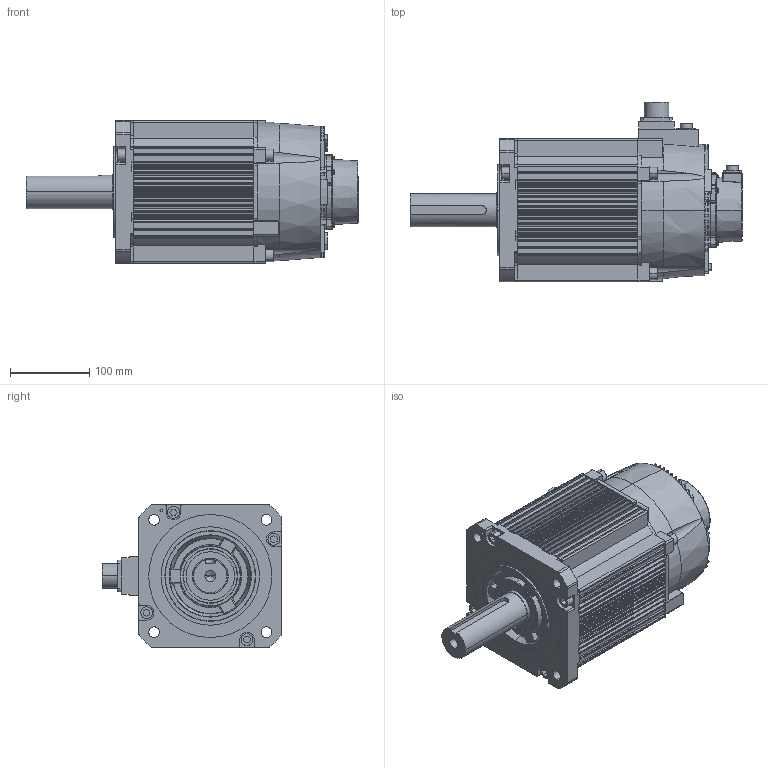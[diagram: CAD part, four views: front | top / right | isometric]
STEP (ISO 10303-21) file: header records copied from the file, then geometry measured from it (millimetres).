
FILE_DESCRIPTION (( 'STEP AP203' ), '1' );
FILE_NAME ('35015.STEP', '2024-09-05T10:59:46', ( '' ), ( '' ), 'SwSTEP 2.0', 'SolidWorks 2018', '' );
FILE_SCHEMA (( 'CONFIG_CONTROL_DESIGN' ));
Length unit declared in the file: millimetre
Products named in the file (10): 35ㄛ48NM堤粣; ヶ裔; 橈勤硉晤鎢ん誘欶  S13E.10-01; 蚐猾; SC-CMV1-R10P-E; CMS3102A22-22P-Z; SC-CMV1-R2P-E; 惕掅綴裔; 35015; 35N.M儂褲 - 萵掛 (3) - 萵掛
Assembly tree (9 placements, depth 2):
  35015
    CMS3102A22-22P-Z
    SC-CMV1-R10P-E
    SC-CMV1-R2P-E
    惕掅綴裔
    ヶ裔
    蚐猾
    35ㄛ48NM堤粣
    35N.M儂褲 - 萵掛 (3) - 萵掛
    橈勤硉晤鎢ん誘欶  S13E.10-01
Bounding box: 418 x 226 x 180 mm (x, y, z)
Volume: 2747977.3 mm3; surface area: 661757.1 mm2
Topology: 9 solids, 13 shells, 1828 faces, 4993 edges, 3242 vertices
Faces by surface type: plane 895, cylinder 796, torus 59, cone 52, bspline 14, sphere 12
Entity records: 60449 total; most frequent: CARTESIAN_POINT 11844, DIRECTION 10349, ORIENTED_EDGE 9866, EDGE_CURVE 4933, AXIS2_PLACEMENT_3D 3721, VERTEX_POINT 3230, VECTOR 2907, LINE 2907
